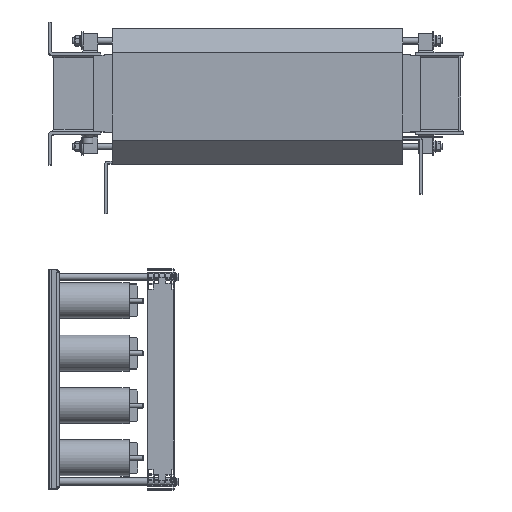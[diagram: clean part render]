
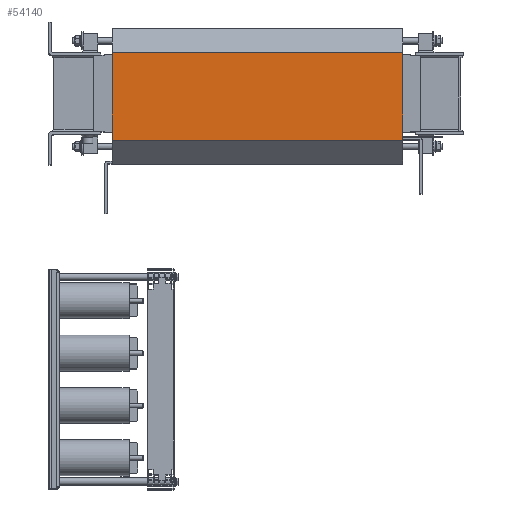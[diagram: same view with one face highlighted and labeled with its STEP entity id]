
A CAD part, top view. The second image highlights one B-rep face of the part: STEP entity #54140.
In plain terms, the highlighted planar face has unit normal (0, 0, 1).
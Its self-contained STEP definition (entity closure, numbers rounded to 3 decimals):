
#5332=LINE('',#88404,#10214);
#5345=LINE('',#88425,#10227);
#5347=LINE('',#88429,#10229);
#5354=LINE('',#88443,#10236);
#10214=VECTOR('',#72072,10.);
#10227=VECTOR('',#72091,10.);
#10229=VECTOR('',#72095,10.);
#10236=VECTOR('',#72114,10.);
#12261=PLANE('',#58650);
#16142=FACE_OUTER_BOUND('',#19946,.T.);
#19946=EDGE_LOOP('',(#45976,#45977,#45978,#45979));
#26563=VERTEX_POINT('',#88401);
#26564=VERTEX_POINT('',#88403);
#26569=VERTEX_POINT('',#88423);
#26570=VERTEX_POINT('',#88427);
#33456=EDGE_CURVE('',#26563,#26564,#5332,.T.);
#33469=EDGE_CURVE('',#26569,#26563,#5345,.T.);
#33471=EDGE_CURVE('',#26564,#26570,#5347,.T.);
#33478=EDGE_CURVE('',#26569,#26570,#5354,.T.);
#45976=ORIENTED_EDGE('',*,*,#33469,.F.);
#45977=ORIENTED_EDGE('',*,*,#33478,.T.);
#45978=ORIENTED_EDGE('',*,*,#33471,.F.);
#45979=ORIENTED_EDGE('',*,*,#33456,.F.);
#54140=ADVANCED_FACE('',(#16142),#12261,.T.);
#58650=AXIS2_PLACEMENT_3D('',#88442,#72112,#72113);
#72072=DIRECTION('',(0.,-1.,0.));
#72091=DIRECTION('',(1.,0.,0.));
#72095=DIRECTION('',(-1.,0.,0.));
#72112=DIRECTION('center_axis',(0.,0.,1.));
#72113=DIRECTION('ref_axis',(1.,0.,0.));
#72114=DIRECTION('',(0.,-1.,0.));
#88401=CARTESIAN_POINT('',(743.5,-50.,703.72));
#88403=CARTESIAN_POINT('',(743.5,-234.76,703.72));
#88404=CARTESIAN_POINT('',(743.5,-50.,703.72));
#88423=CARTESIAN_POINT('',(133.5,-50.,703.72));
#88425=CARTESIAN_POINT('',(133.5,-50.,703.72));
#88427=CARTESIAN_POINT('',(133.5,-234.76,703.72));
#88429=CARTESIAN_POINT('',(743.5,-234.76,703.72));
#88442=CARTESIAN_POINT('Origin',(438.5,-234.77,703.72));
#88443=CARTESIAN_POINT('',(133.5,-50.,703.72));
